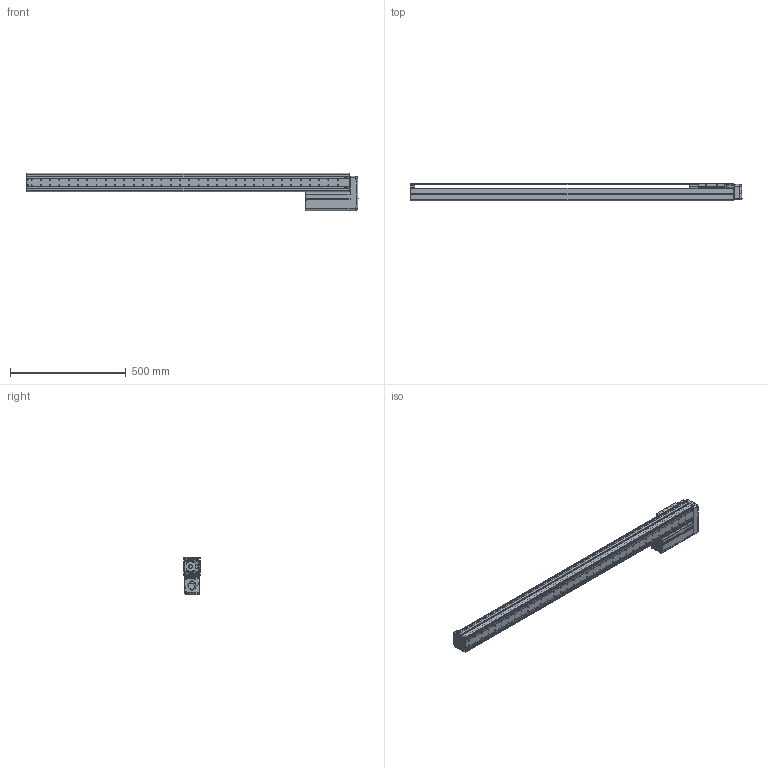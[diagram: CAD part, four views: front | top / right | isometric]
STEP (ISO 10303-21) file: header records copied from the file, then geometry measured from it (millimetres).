
FILE_DESCRIPTION((''),'2;1');
FILE_NAME('BE10E-UL-M_B-C0_IGS_PRT','2017-06-17T',(' '),(''),'PRO/ENGINEER BY PARAMETRIC TECHNOLOGY CORPORATION, 2015030','PRO/ENGINEER BY PARAMETRIC TECHNOLOGY CORPORATION, 2015030','');
FILE_SCHEMA(('CONFIG_CONTROL_DESIGN'));
Length unit declared in the file: millimetre
Products named in the file (1): BE10E-UL-M_B-C0_IGS_PRT
Bounding box: 1431.42 x 75 x 160 mm (x, y, z)
Volume: 1926792 mm3; surface area: 1304971 mm2
Topology: 2 solids, 147 shells, 1952 faces, 5285 edges, 3461 vertices
Faces by surface type: cylinder 985, plane 739, cone 81, torus 69, sphere 44, bspline 34
Entity records: 64179 total; most frequent: CARTESIAN_POINT 13727, DIRECTION 10946, ORIENTED_EDGE 9928, EDGE_CURVE 5245, AXIS2_PLACEMENT_3D 4147, VERTEX_POINT 3461, VECTOR 2652, LINE 2652
